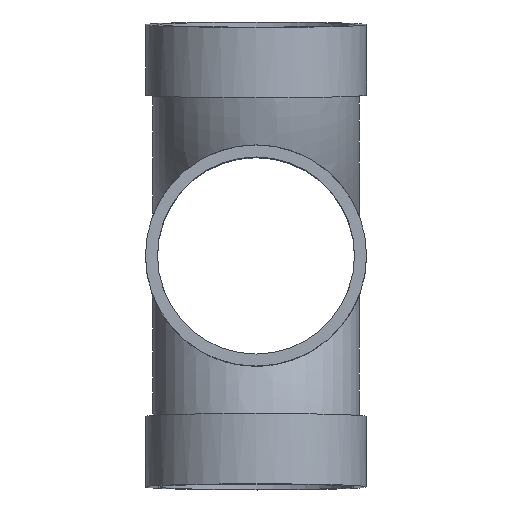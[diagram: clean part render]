
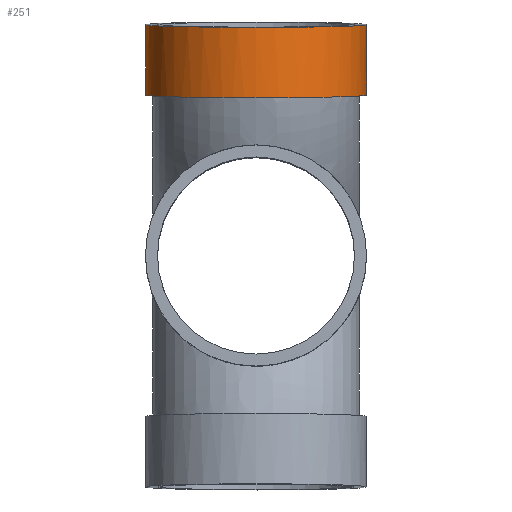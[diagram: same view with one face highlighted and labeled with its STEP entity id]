
A CAD part, top view. The second image highlights one B-rep face of the part: STEP entity #251.
In plain terms, the highlighted cylindrical face has radius 55 mm (diameter 110 mm), a full revolution.
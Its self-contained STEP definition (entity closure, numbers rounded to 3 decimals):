
#30=FACE_OUTER_BOUND('',#111,.T.);
#45=CIRCLE('',#281,55.);
#46=CIRCLE('',#283,55.);
#74=FACE_BOUND('',#112,.T.);
#111=EDGE_LOOP('',(#206,#207));
#112=EDGE_LOOP('',(#208));
#121=B_SPLINE_CURVE_WITH_KNOTS('',3,(#807,#808,#809,#810),.UNSPECIFIED.,
 .F.,.F.,(4,4),(2.741,2.903),.UNSPECIFIED.);
#140=VERTEX_POINT('',#805);
#141=VERTEX_POINT('',#806);
#142=VERTEX_POINT('',#885);
#161=EDGE_CURVE('',#140,#141,#121,.T.);
#163=EDGE_CURVE('',#141,#140,#45,.T.);
#164=EDGE_CURVE('',#142,#142,#46,.T.);
#206=ORIENTED_EDGE('',*,*,#161,.T.);
#207=ORIENTED_EDGE('',*,*,#163,.T.);
#208=ORIENTED_EDGE('',*,*,#164,.F.);
#214=CYLINDRICAL_SURFACE('',#284,55.);
#251=ADVANCED_FACE('',(#30,#74),#214,.T.);
#281=AXIS2_PLACEMENT_3D('',#883,#339,#340);
#283=AXIS2_PLACEMENT_3D('',#886,#343,#344);
#284=AXIS2_PLACEMENT_3D('',#887,#345,#346);
#339=DIRECTION('center_axis',(0.,1.,0.026));
#340=DIRECTION('ref_axis',(0.,0.026,-1.));
#343=DIRECTION('center_axis',(0.,1.,0.026));
#344=DIRECTION('ref_axis',(0.,0.026,-1.));
#345=DIRECTION('center_axis',(0.,-1.,
-0.026));
#346=DIRECTION('ref_axis',(0.,0.026,-1.));
#805=CARTESIAN_POINT('',(0.806,81.412,82.119));
#806=CARTESIAN_POINT('',(-0.806,81.412,82.119));
#807=CARTESIAN_POINT('Ctrl Pts',(0.806,81.412,82.119));
#808=CARTESIAN_POINT('Ctrl Pts',(0.269,81.415,82.111));
#809=CARTESIAN_POINT('Ctrl Pts',(-0.269,81.415,82.111));
#810=CARTESIAN_POINT('Ctrl Pts',(-0.806,81.412,82.119));
#883=CARTESIAN_POINT('Origin',(0.,79.973,137.094));
#885=CARTESIAN_POINT('',(0.,113.521,192.992));
#886=CARTESIAN_POINT('Origin',(0.,114.961,138.01));
#887=CARTESIAN_POINT('Origin',(0.,114.961,138.01));
